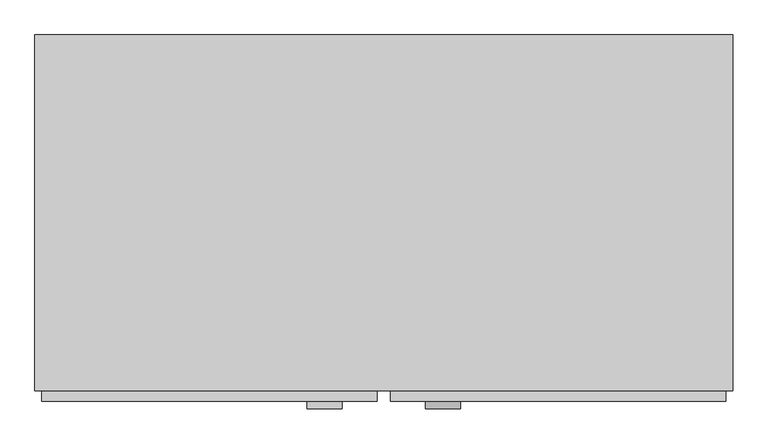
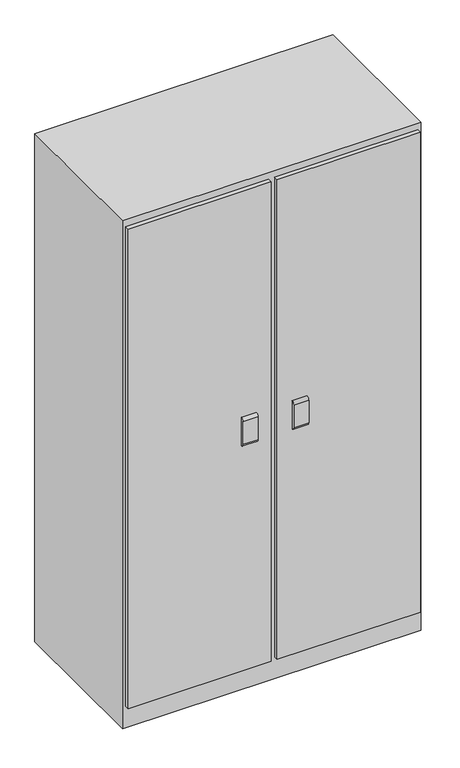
"""IFC4 building model written with IfcOpenShell, lengths in millimetres: furniture geometry, BIMHealth-Document_Cabinet-LOD2A-v1 : BIMHealth-Document_Cabinet-LOD2A-v1."""

from ifc_helpers import new_model, si_unit, point, frame, frame_2d, origin, origin_with_axes, place, context, project, spatial, polyline, circle_curve, trimmed, segment, composite_curve, outline, extrude, source, transform, mapped, element, save


def furniture_bd22f9ff(model_context):
    return source(origin(), model_context, "Body", "SweptSolid", [
        extrude(outline(composite_curve([segment(trimmed(circle_curve(frame_2d((-270.0, 966.3563861)), 10.0), [point((-280.0, 966.3563861))], [point((-270.0, 976.3563861))], False, "CARTESIAN"), True, "CONTINUOUS"), segment(polyline([(-270.0, 976.3563861), (-270.0, 876.3563861)]), True, "CONTINUOUS"), segment(trimmed(circle_curve(frame_2d((-270.0, 886.3563861)), 10.0), [point((-270.0, 876.3563861))], [point((-280.0, 886.3563861))], False, "CARTESIAN"), True, "CONTINUOUS"), segment(polyline([(-280.0, 886.3563861), (-280.0, 966.3563861)]), True, "CONTINUOUS")], self_intersect=False)), frame((60.0, 0.0, 0.0), z_axis=(1.0, 0.0, 0.0), x_axis=(0.0, 1.0, 0.0)), (0.0, 0.0, 1.0), 50.0),
        extrude(outline(composite_curve([segment(trimmed(circle_curve(frame_2d((-270.0, 966.3563861)), 10.0), [point((-280.0, 966.3563861))], [point((-270.0, 976.3563861))], False, "CARTESIAN"), True, "CONTINUOUS"), segment(polyline([(-270.0, 976.3563861), (-270.0, 876.3563861)]), True, "CONTINUOUS"), segment(trimmed(circle_curve(frame_2d((-270.0, 886.3563861)), 10.0), [point((-270.0, 876.3563861))], [point((-280.0, 886.3563861))], False, "CARTESIAN"), True, "CONTINUOUS"), segment(polyline([(-280.0, 886.3563861), (-280.0, 966.3563861)]), True, "CONTINUOUS")], self_intersect=False)), frame((-110.0, 0.0, 0.0), z_axis=(1.0, 0.0, 0.0), x_axis=(0.0, 1.0, 0.0)), (0.0, 0.0, 1.0), 50.0),
        extrude(outline(polyline([(-490.0, -270.0), (-490.0, -255.0), (-10.0, -255.0), (-10.0, -270.0), (-490.0, -270.0)])), frame((0.0, 0.0, 76.3563861), z_axis=(0.0, 0.0, 1.0), x_axis=(1.0, 0.0, 0.0)), (0.0, 0.0, 1.0), 1700.0),
        extrude(outline(polyline([(10.0, -270.0), (10.0, -255.0), (490.0, -255.0), (490.0, -270.0), (10.0, -270.0)])), frame((0.0, 0.0, 76.3563861), z_axis=(0.0, 0.0, 1.0), x_axis=(1.0, 0.0, 0.0)), (0.0, 0.0, 1.0), 1700.0),
        extrude(outline(polyline([(-500.0, 255.0), (500.0, 255.0), (500.0, -255.0), (-500.0, -255.0), (-500.0, 255.0)])), origin_with_axes(), (0.0, 0.0, 1.0), 1800.0),
    ])


if __name__ == "__main__":
    model = new_model("IFC4")
    model_context = context("Model", 3, world=origin())
    ifc_project = project(units=[si_unit("LENGTHUNIT", "METRE", prefix="MILLI")], contexts=[model_context])
    site = spatial("IfcSite", under=ifc_project)
    building = spatial("IfcBuilding", under=site)
    placement = place(None, origin())
    furniture_shape = furniture_bd22f9ff(model_context)
    element("IfcFurniture", 1, ObjectType="BIMHealth-Document_Cabinet-LOD2A-v1 : BIMHealth-Document_Cabinet-LOD2A-v1", at=placement, inside=building, context=model_context, shape_type="MappedRepresentation", body=[
        mapped(furniture_shape, transform((0.0, 0.0, 0.0), x_axis=(1.0, 0.0, 0.0), y_axis=(0.0, 1.0, 0.0), z_axis=(0.0, 0.0, 1.0))),
    ])
    save(model, "model.ifc")
